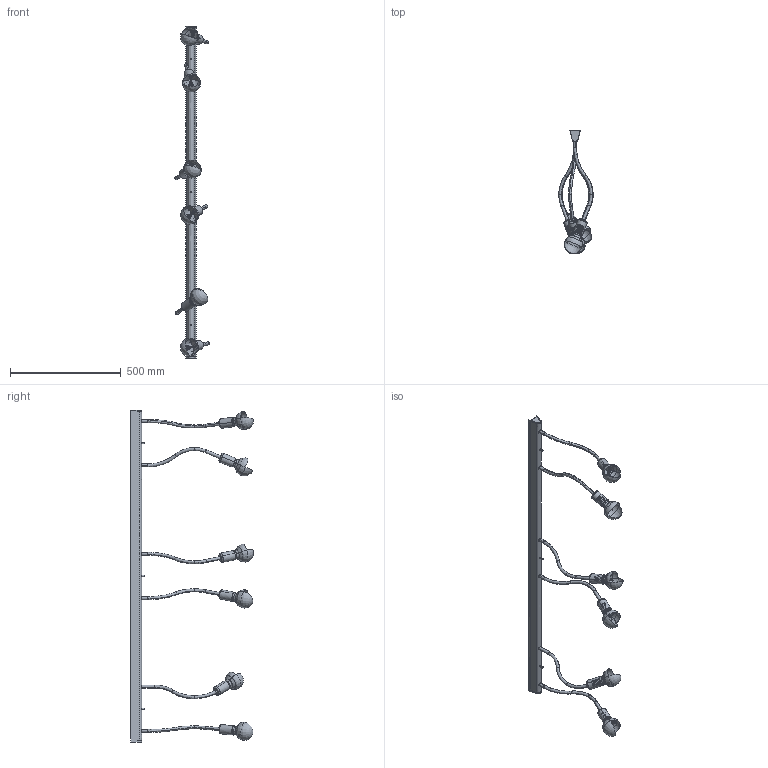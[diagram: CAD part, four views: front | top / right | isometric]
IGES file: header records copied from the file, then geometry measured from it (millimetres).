
Start section: SolidWorks IGES file using analytic representation for surfaces
Global section: file name: E:\3D lampy\Flex\Flex_9765,9771.IGS; native system: SolidWorks 2016; preprocessor: SolidWorks 2016; author: Asia; date: 170623.125142; units: millimetre
Bounding box: 155.7 x 555.48 x 1500 mm (x, y, z)
Surface area: 1038114 mm2 (no closed solid volume)
Topology: 0 solids, 0 shells, 1104 faces, 12415 edges, 12409 vertices
Faces by surface type: revolution 836, bspline 268
